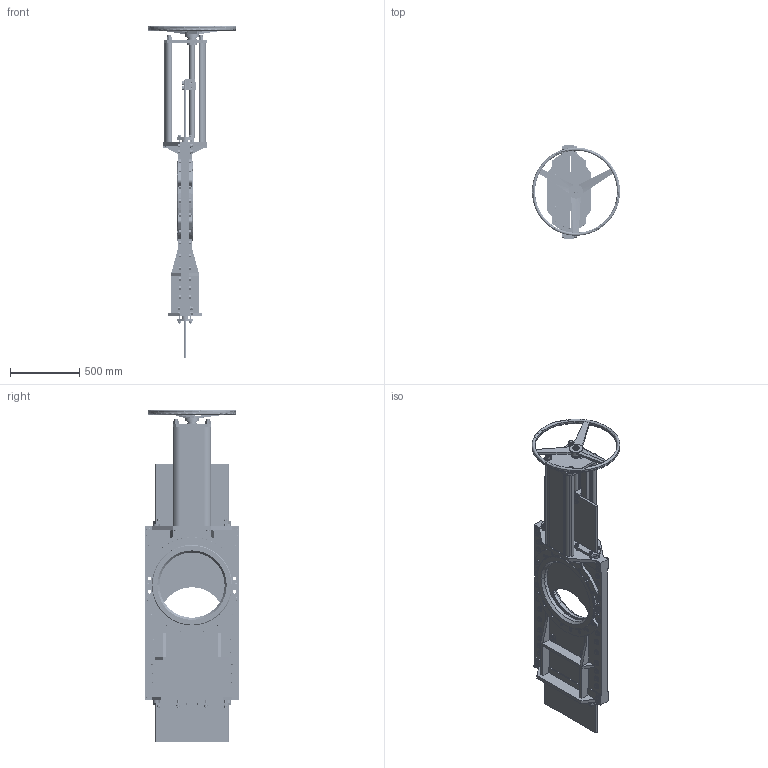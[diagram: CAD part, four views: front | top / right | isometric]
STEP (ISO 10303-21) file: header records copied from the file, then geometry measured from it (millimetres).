
FILE_DESCRIPTION(('STEP AP203'),'1');
FILE_NAME('G:/KONSTRUK/3-d block för CD/HG VALVE/HAND WHEEL/HG500-PN10-HW.stp','2012-12-03T10:05:36',(' '),(' '),'Spatial InterOp 3D',' ',' ');
FILE_SCHEMA(('CONFIG_CONTROL_DESIGN'));
Length unit declared in the file: millimetre
Products named in the file (1): 1
Bounding box: 635 x 680 x 2391.48 mm (x, y, z)
Volume: 76055627.1 mm3; surface area: 9177626.6 mm2
Topology: 1 solids, 38 shells, 4356 faces, 9997 edges, 6227 vertices
Faces by surface type: plane 1632, cone 1557, cylinder 1162, torus 5
Full cylindrical faces by diameter (mm): 16 x1
Entity records: 131670 total; most frequent: CARTESIAN_POINT 33197, DIRECTION 21066, ORIENTED_EDGE 19980, EDGE_CURVE 9990, AXIS2_PLACEMENT_3D 8663, VERTEX_POINT 6226, EDGE_LOOP 4992, ADVANCED_FACE 4356
